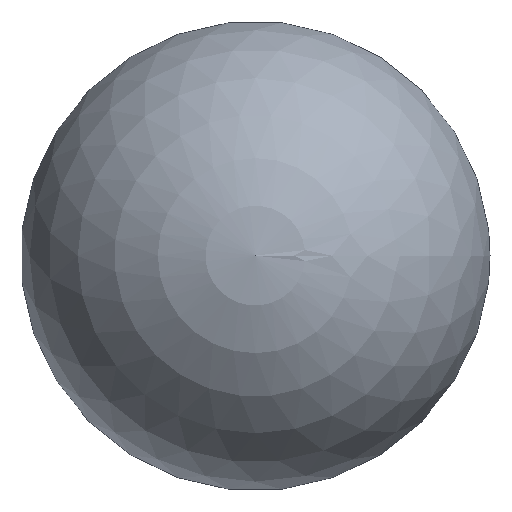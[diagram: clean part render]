
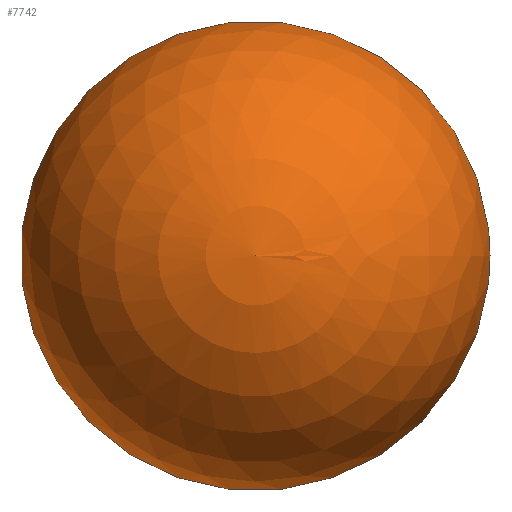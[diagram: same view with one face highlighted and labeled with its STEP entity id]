
A CAD part, top view. The second image highlights one B-rep face of the part: STEP entity #7742.
In plain terms, the highlighted spherical face has radius 1370 mm.
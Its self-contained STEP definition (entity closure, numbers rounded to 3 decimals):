
#274=SPHERICAL_SURFACE('',#69688,1370.);
#7742=ADVANCED_FACE('',(#12694),#274,.T.);
#12694=FACE_OUTER_BOUND('',#16805,.T.);
#16805=EDGE_LOOP('',(#43381));
#43381=ORIENTED_EDGE('',*,*,#58608,.F.);
#49149=VERTEX_POINT('',#185689);
#58608=EDGE_CURVE('',#49149,#49149,#62436,.T.);
#62436=CIRCLE('',#69686,1156.569);
#69686=AXIS2_PLACEMENT_3D('',#185688,#86750,#86751);
#69688=AXIS2_PLACEMENT_3D('',#185691,#86754,#86755);
#86750=DIRECTION('',(0.,0.,-1.));
#86751=DIRECTION('',(-1.,0.,0.));
#86754=DIRECTION('',(0.,0.,-1.));
#86755=DIRECTION('',(1.,0.,0.));
#185688=CARTESIAN_POINT('',(0.,0.,-459.335));
#185689=CARTESIAN_POINT('',(-1156.569,0.,-459.335));
#185691=CARTESIAN_POINT('',(0.,0.,275.));
